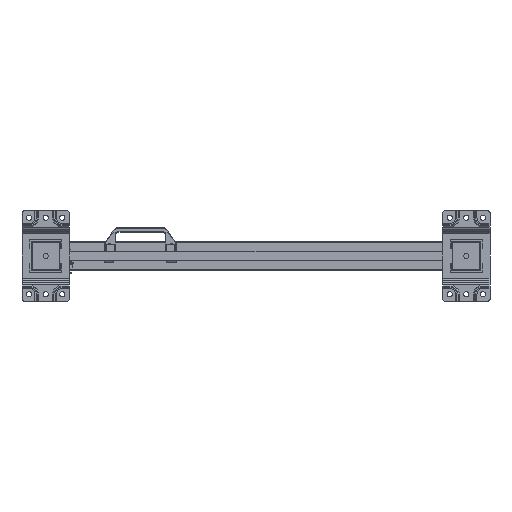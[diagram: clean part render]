
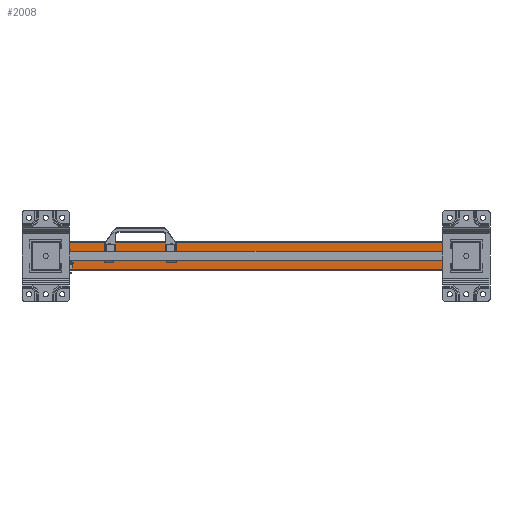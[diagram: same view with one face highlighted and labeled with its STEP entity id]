
A CAD part, front view. The second image highlights one B-rep face of the part: STEP entity #2008.
In plain terms, the highlighted planar face has unit normal (0, -1, 0).
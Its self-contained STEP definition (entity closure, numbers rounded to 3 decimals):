
#2008=ADVANCED_FACE('',(#5945),#5946,.T.);
#5945=FACE_OUTER_BOUND('',#12134,.T.);
#5946=PLANE('',#12135);
#12134=EDGE_LOOP('',(#19867,#19868,#19869,#19870));
#12135=AXIS2_PLACEMENT_3D('',#19871,#19872,#19873);
#19867=ORIENTED_EDGE('',*,*,#37314,.T.);
#19868=ORIENTED_EDGE('',*,*,#37315,.F.);
#19869=ORIENTED_EDGE('',*,*,#37316,.T.);
#19870=ORIENTED_EDGE('',*,*,#37304,.T.);
#19871=CARTESIAN_POINT('',(0.0,2539.0,30.));
#19872=DIRECTION('',(0.,-1.0,0.));
#19873=DIRECTION('',(-1.0,0.,0.0));
#37304=EDGE_CURVE('',#44474,#44472,#44475,.T.);
#37314=EDGE_CURVE('',#44472,#44487,#44488,.T.);
#37315=EDGE_CURVE('',#44489,#44487,#44490,.T.);
#37316=EDGE_CURVE('',#44489,#44474,#44491,.T.);
#44472=VERTEX_POINT('',#54990);
#44474=VERTEX_POINT('',#54993);
#44475=LINE('',#54994,#54995);
#44487=VERTEX_POINT('',#55013);
#44488=LINE('',#55014,#55015);
#44489=VERTEX_POINT('',#55016);
#44490=LINE('',#55017,#55018);
#44491=LINE('',#55019,#55020);
#54990=CARTESIAN_POINT('',(830.0,2539.0,-30.));
#54993=CARTESIAN_POINT('',(0.,2539.0,-30.));
#54994=CARTESIAN_POINT('',(0.,2539.0,-30.));
#54995=VECTOR('',#70836,10.0);
#55013=CARTESIAN_POINT('',(830.0,2539.0,30.));
#55014=CARTESIAN_POINT('',(830.0,2539.0,15.));
#55015=VECTOR('',#70843,1.0);
#55016=CARTESIAN_POINT('',(0.0,2539.0,30.));
#55017=CARTESIAN_POINT('',(0.0,2539.0,30.));
#55018=VECTOR('',#70844,10.0);
#55019=CARTESIAN_POINT('',(0.0,2539.0,30.));
#55020=VECTOR('',#70845,10.0);
#70836=DIRECTION('',(1.0,0.,0.));
#70843=DIRECTION('',(-0.0,0.,1.0));
#70844=DIRECTION('',(1.0,0.,0.));
#70845=DIRECTION('',(0.,0.,-1.0));
